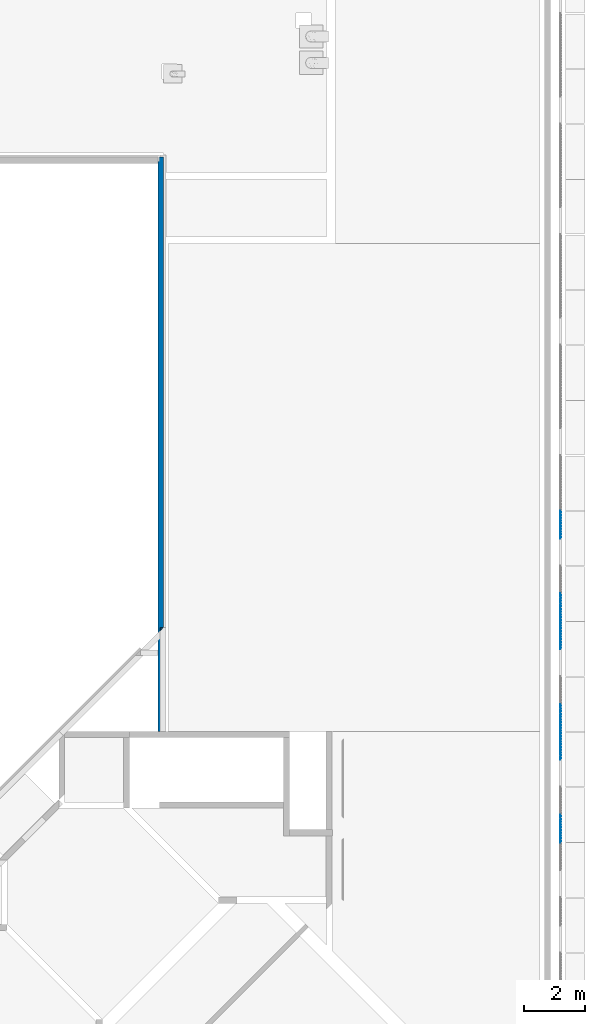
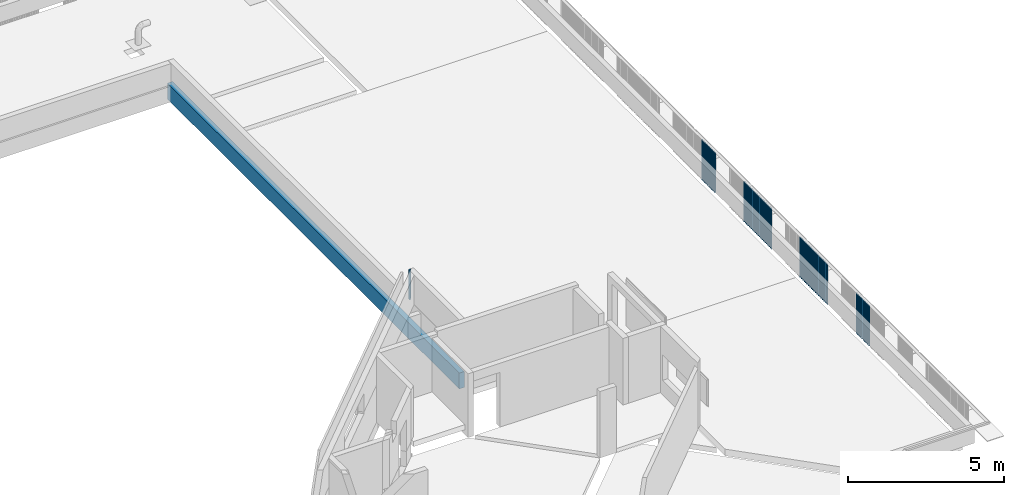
# One storey, part 12 of 37: 8 walls.
"""IFC4X3_ADD2 building model written with IfcOpenShell, lengths in millimetres."""

from ifc_helpers import new_model, si_unit, direction, frame, frame_2d, origin_with_axes, place, context, subcontext, project, spatial, polyline, rectangle, outline, extrude, material, type_object, element, save


model = new_model("IFC4X3_ADD2")

# Units and contexts
model_context = context("Model", 3, precision=1e-05, world=origin_with_axes(), true_north=direction((0.0, 1.0)))
body_context = subcontext(model_context, "Body", "Model", "MODEL_VIEW")
ifc_project = project(units=[si_unit("LENGTHUNIT", "METRE", prefix="MILLI"), si_unit("AREAUNIT", "SQUARE_METRE"), si_unit("VOLUMEUNIT", "CUBIC_METRE"), si_unit("PLANEANGLEUNIT", "RADIAN"), si_unit("TIMEUNIT", "SECOND"), si_unit("MASSUNIT", "GRAM")], contexts=[model_context])

# Site, building, storey
site_placement = place(None, origin_with_axes())
site = spatial("IfcSite", under=ifc_project, at=site_placement, Name="Site", CompositionType="ELEMENT")
building_placement = place(site_placement, origin_with_axes())
building = spatial("IfcBuilding", under=site, at=building_placement, Name="IFC Building Story")
storey_placement = place(building_placement, frame((0.0, 0.0, 14400.0), z_axis=(0.0, 0.0, 1.0), x_axis=(1.0, 0.0, 0.0)))
storey = spatial("IfcBuildingStorey", under=building, at=storey_placement, Name="040", Elevation=14400.0)

# Walls
ifc_material_1 = material(Name="BB_Beton_Bestaand")
wall_type_1 = type_object("IfcWallType", Name="BB_Beton_Bestaand 190", PredefinedType="NOTDEFINED", material=ifc_material_1)
wall_1_placement = place(storey_placement, origin_with_axes())
element("IfcWall", 1, at=wall_1_placement, inside=storey, type_object=wall_type_1, Name="Basic Wall:BB_XX_Wand uit beton, 190 mm", ObjectType="Basic Wall:BB_XX_Wand uit beton, 190 mm", PredefinedType="SOLIDWALL", context=body_context, shape_type="SweptSolid", body=[
    extrude(rectangle(XDim=18704.9959341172, YDim=190.0, at=frame_2d((0.0, 0.0), x_axis=(0.0, 1.0))), frame((-12600.0040658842, 29452.4979670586, -200.0), z_axis=(0.0, 0.0, 1.0), x_axis=(1.0, 0.0, 0.0)), (0.0, 0.0, 1.0), 619.999999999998),
])
ifc_material_2 = material(Name="BB_Metselwerk_Betonsteen")
wall_type_2 = type_object("IfcWallType", Name="BB_Metselwerk_Betonsteen 0", PredefinedType="NOTDEFINED", material=ifc_material_2)
wall_2_placement = place(storey_placement, origin_with_axes())
element("IfcWall", 2, at=wall_2_placement, inside=storey, type_object=wall_type_2, Name="Basic Wall:BB_03.09.24#03_Wand uit metselwerk, 190 mm", ObjectType="Basic Wall:BB_03.09.24#03_Wand uit metselwerk, 190 mm", PredefinedType="SOLIDWALL", context=body_context, shape_type="SweptSolid", body=[
    extrude(outline(polyline([(-31.66666666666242, -63.33333333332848), (-31.66666666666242, 31.66666666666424), (63.33333333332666, 31.66666666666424), (-31.66666666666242, -63.33333333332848)])), frame((-12588.33739921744, 23447.97760493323, 1250.0), z_axis=(0.0, 0.0, 1.0), x_axis=(1.0, 0.0, 0.0)), (0.0, 0.0, 1.0), 1150.0),
])
ifc_material_3 = material(Name="BB_Metaal_Aluminium_Puntprofiel")
wall_type_3 = type_object("IfcWallType", Name="BB_Metaal_Aluminium_Puntprofiel 1", PredefinedType="NOTDEFINED", material=ifc_material_3)
wall_3_placement = place(storey_placement, origin_with_axes())
element("IfcWall", 3, at=wall_3_placement, inside=storey, type_object=wall_type_3, Name="BB_07.10_Gevelbekleding_PuntProfiel, 900 mm, vol_GMO:900 x 1600 mm", ObjectType="BB_07.10_Gevelbekleding_PuntProfiel, 900 mm, vol_GMO:900 x 1600 mm", PredefinedType="NOTDEFINED", context=body_context, shape_type="SweptSolid", body=[
    extrude(outline(polyline([(-10.06027913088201, -349.0000000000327), (-10.06027913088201, -371.0000000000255), (23.93972086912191, -405.0000000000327), (-10.06027913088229, -439.0000000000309), (-10.06027913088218, -461.0000000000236), (-11.06027913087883, -461.4142135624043), (-11.06027913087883, -438.5857864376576), (22.52550730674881, -405.0000000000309), (-11.06027913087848, -371.4142135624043), (-11.06027913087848, -348.5857864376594), (22.52550730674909, -315.0000000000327), (-11.0602791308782, -281.4142135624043), (-11.0602791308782, -258.5857864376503), (22.52550730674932, -225.0000000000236), (-11.06027913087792, -191.4142135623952), (-11.06027913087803, -168.585786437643), (22.5255073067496, -135.0000000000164), (-11.0602791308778, -101.4142135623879), (-11.06027913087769, -78.58578643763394), (22.52550730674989, -45.00000000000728), (-11.06027913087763, -11.41421356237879), (-11.06027913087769, 11.41421356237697), (22.52550730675, 45.00000000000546), (-11.0602791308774, 78.58578643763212), (-11.0602791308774, 101.4142135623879), (22.52550730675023, 135.0000000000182), (-11.06027913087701, 168.585786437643), (-11.06027913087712, 191.4142135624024), (22.5255073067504, 225.0000000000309), (-11.06027913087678, 258.5857864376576), (-11.06027913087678, 281.4142135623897), (22.5255073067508, 315.0000000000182), (-11.06027913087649, 348.585786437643), (-11.06027913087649, 371.4142135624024), (22.52550730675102, 405.0000000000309), (-11.06027913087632, 438.5857864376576), (-11.06027913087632, 461.4142135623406), (-10.0602791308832, 460.9999999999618), (-10.0602791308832, 439.0000000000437), (23.93972086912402, 405.0000000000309), (-10.06027913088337, 371.0000000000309), (-10.06027913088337, 349.0000000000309), (23.93972086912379, 315.0000000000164), (-10.0602791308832, 281.0000000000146), (-10.0602791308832, 259.0000000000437), (23.93972086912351, 225.0000000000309), (-10.060279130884, 191.0000000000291), (-10.060279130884, 169.0000000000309), (23.93972086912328, 135.0000000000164), (-10.06027913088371, 101.0000000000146), (-10.06027913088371, 79.00000000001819), (23.93972086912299, 45.00000000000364), (-10.06027913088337, 11.00000000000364), (-10.06027913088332, -10.99999999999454), (23.93972086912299, -45.00000000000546), (-10.0602791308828, -79.00000000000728), (-10.0602791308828, -101.0000000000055), (23.93972086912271, -135.0000000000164), (-10.06027913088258, -169.0000000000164), (-10.06027913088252, -191.0000000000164), (23.93972086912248, -225.0000000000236), (-10.06027913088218, -259.0000000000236), (-10.06027913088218, -281.0000000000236), (23.9397208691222, -315.0000000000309), (-10.06027913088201, -349.0000000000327)])), frame((426.0602791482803, 16930.00000000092, -960.0), z_axis=(0.0, 0.0, 1.0), x_axis=(1.0, 0.0, 0.0)), (0.0, 0.0, 1.0), 1600.0),
])
wall_4_placement = place(storey_placement, origin_with_axes())
element("IfcWall", 4, at=wall_4_placement, inside=storey, type_object=wall_type_3, Name="BB_07.10_Gevelbekleding_PuntProfiel, 900 mm, vol_GMO:900 x 1600 mm", ObjectType="BB_07.10_Gevelbekleding_PuntProfiel, 900 mm, vol_GMO:900 x 1600 mm", PredefinedType="NOTDEFINED", context=body_context, shape_type="SweptSolid", body=[
    extrude(outline(polyline([(-10.06027913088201, -349.0000000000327), (-10.06027913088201, -371.0000000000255), (23.93972086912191, -405.0000000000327), (-10.06027913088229, -439.0000000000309), (-10.06027913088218, -461.0000000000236), (-11.06027913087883, -461.4142135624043), (-11.06027913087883, -438.5857864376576), (22.52550730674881, -405.0000000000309), (-11.06027913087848, -371.4142135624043), (-11.06027913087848, -348.5857864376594), (22.52550730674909, -315.0000000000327), (-11.0602791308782, -281.4142135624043), (-11.0602791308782, -258.5857864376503), (22.52550730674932, -225.0000000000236), (-11.06027913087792, -191.4142135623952), (-11.06027913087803, -168.585786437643), (22.5255073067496, -135.0000000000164), (-11.0602791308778, -101.4142135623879), (-11.06027913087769, -78.58578643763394), (22.52550730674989, -45.00000000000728), (-11.06027913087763, -11.41421356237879), (-11.06027913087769, 11.41421356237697), (22.52550730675, 45.00000000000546), (-11.0602791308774, 78.58578643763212), (-11.0602791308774, 101.4142135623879), (22.52550730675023, 135.0000000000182), (-11.06027913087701, 168.585786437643), (-11.06027913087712, 191.4142135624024), (22.5255073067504, 225.0000000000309), (-11.06027913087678, 258.5857864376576), (-11.06027913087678, 281.4142135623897), (22.5255073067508, 315.0000000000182), (-11.06027913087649, 348.585786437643), (-11.06027913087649, 371.4142135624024), (22.52550730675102, 405.0000000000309), (-11.06027913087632, 438.5857864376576), (-11.06027913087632, 461.4142135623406), (-10.0602791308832, 460.9999999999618), (-10.0602791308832, 439.0000000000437), (23.93972086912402, 405.0000000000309), (-10.06027913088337, 371.0000000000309), (-10.06027913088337, 349.0000000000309), (23.93972086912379, 315.0000000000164), (-10.0602791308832, 281.0000000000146), (-10.0602791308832, 259.0000000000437), (23.93972086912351, 225.0000000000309), (-10.060279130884, 191.0000000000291), (-10.060279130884, 169.0000000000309), (23.93972086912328, 135.0000000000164), (-10.06027913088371, 101.0000000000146), (-10.06027913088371, 79.00000000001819), (23.93972086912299, 45.00000000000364), (-10.06027913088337, 11.00000000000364), (-10.06027913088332, -10.99999999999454), (23.93972086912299, -45.00000000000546), (-10.0602791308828, -79.00000000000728), (-10.0602791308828, -101.0000000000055), (23.93972086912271, -135.0000000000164), (-10.06027913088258, -169.0000000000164), (-10.06027913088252, -191.0000000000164), (23.93972086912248, -225.0000000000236), (-10.06027913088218, -259.0000000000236), (-10.06027913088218, -281.0000000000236), (23.9397208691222, -315.0000000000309), (-10.06027913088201, -349.0000000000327)])), frame((426.0602791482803, 19630.00000000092, -960.0), z_axis=(0.0, 0.0, 1.0), x_axis=(1.0, 0.0, 0.0)), (0.0, 0.0, 1.0), 1600.0),
])
wall_5_placement = place(storey_placement, origin_with_axes())
element("IfcWall", 5, at=wall_5_placement, inside=storey, type_object=wall_type_3, Name="BB_07.10_Gevelbekleding_PuntProfiel, 900 mm, vol_GMO:900 x 1600 mm", ObjectType="BB_07.10_Gevelbekleding_PuntProfiel, 900 mm, vol_GMO:900 x 1600 mm", PredefinedType="NOTDEFINED", context=body_context, shape_type="SweptSolid", body=[
    extrude(outline(polyline([(-10.06027913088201, -349.0000000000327), (-10.06027913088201, -371.0000000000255), (23.93972086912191, -405.0000000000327), (-10.06027913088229, -439.0000000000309), (-10.06027913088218, -461.0000000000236), (-11.06027913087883, -461.4142135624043), (-11.06027913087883, -438.5857864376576), (22.52550730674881, -405.0000000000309), (-11.06027913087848, -371.4142135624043), (-11.06027913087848, -348.5857864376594), (22.52550730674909, -315.0000000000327), (-11.0602791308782, -281.4142135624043), (-11.0602791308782, -258.5857864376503), (22.52550730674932, -225.0000000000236), (-11.06027913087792, -191.4142135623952), (-11.06027913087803, -168.585786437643), (22.5255073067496, -135.0000000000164), (-11.0602791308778, -101.4142135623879), (-11.06027913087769, -78.58578643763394), (22.52550730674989, -45.00000000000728), (-11.06027913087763, -11.41421356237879), (-11.06027913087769, 11.41421356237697), (22.52550730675, 45.00000000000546), (-11.0602791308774, 78.58578643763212), (-11.0602791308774, 101.4142135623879), (22.52550730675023, 135.0000000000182), (-11.06027913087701, 168.585786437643), (-11.06027913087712, 191.4142135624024), (22.5255073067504, 225.0000000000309), (-11.06027913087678, 258.5857864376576), (-11.06027913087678, 281.4142135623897), (22.5255073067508, 315.0000000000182), (-11.06027913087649, 348.585786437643), (-11.06027913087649, 371.4142135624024), (22.52550730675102, 405.0000000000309), (-11.06027913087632, 438.5857864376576), (-11.06027913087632, 461.4142135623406), (-10.0602791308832, 460.9999999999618), (-10.0602791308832, 439.0000000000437), (23.93972086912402, 405.0000000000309), (-10.06027913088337, 371.0000000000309), (-10.06027913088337, 349.0000000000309), (23.93972086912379, 315.0000000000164), (-10.0602791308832, 281.0000000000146), (-10.0602791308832, 259.0000000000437), (23.93972086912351, 225.0000000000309), (-10.060279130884, 191.0000000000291), (-10.060279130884, 169.0000000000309), (23.93972086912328, 135.0000000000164), (-10.06027913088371, 101.0000000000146), (-10.06027913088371, 79.00000000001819), (23.93972086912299, 45.00000000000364), (-10.06027913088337, 11.00000000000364), (-10.06027913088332, -10.99999999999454), (23.93972086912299, -45.00000000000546), (-10.0602791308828, -79.00000000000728), (-10.0602791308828, -101.0000000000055), (23.93972086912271, -135.0000000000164), (-10.06027913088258, -169.0000000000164), (-10.06027913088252, -191.0000000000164), (23.93972086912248, -225.0000000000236), (-10.06027913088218, -259.0000000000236), (-10.06027913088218, -281.0000000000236), (23.9397208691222, -315.0000000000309), (-10.06027913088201, -349.0000000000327)])), frame((426.0602791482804, 20530.00000000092, -960.0), z_axis=(0.0, 0.0, 1.0), x_axis=(1.0, 0.0, 0.0)), (0.0, 0.0, 1.0), 1600.0),
])
wall_6_placement = place(storey_placement, origin_with_axes())
element("IfcWall", 6, at=wall_6_placement, inside=storey, type_object=wall_type_3, Name="BB_07.10_Gevelbekleding_PuntProfiel, 900 mm, vol_GMO:900 x 1600 mm", ObjectType="BB_07.10_Gevelbekleding_PuntProfiel, 900 mm, vol_GMO:900 x 1600 mm", PredefinedType="NOTDEFINED", context=body_context, shape_type="SweptSolid", body=[
    extrude(outline(polyline([(-10.06027913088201, -349.0000000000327), (-10.06027913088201, -371.0000000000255), (23.93972086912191, -405.0000000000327), (-10.06027913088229, -439.0000000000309), (-10.06027913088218, -461.0000000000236), (-11.06027913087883, -461.4142135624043), (-11.06027913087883, -438.5857864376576), (22.52550730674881, -405.0000000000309), (-11.06027913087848, -371.4142135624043), (-11.06027913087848, -348.5857864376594), (22.52550730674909, -315.0000000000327), (-11.0602791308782, -281.4142135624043), (-11.0602791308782, -258.5857864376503), (22.52550730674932, -225.0000000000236), (-11.06027913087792, -191.4142135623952), (-11.06027913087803, -168.585786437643), (22.5255073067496, -135.0000000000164), (-11.0602791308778, -101.4142135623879), (-11.06027913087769, -78.58578643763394), (22.52550730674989, -45.00000000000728), (-11.06027913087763, -11.41421356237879), (-11.06027913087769, 11.41421356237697), (22.52550730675, 45.00000000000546), (-11.0602791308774, 78.58578643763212), (-11.0602791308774, 101.4142135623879), (22.52550730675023, 135.0000000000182), (-11.06027913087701, 168.585786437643), (-11.06027913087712, 191.4142135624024), (22.5255073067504, 225.0000000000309), (-11.06027913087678, 258.5857864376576), (-11.06027913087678, 281.4142135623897), (22.5255073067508, 315.0000000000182), (-11.06027913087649, 348.585786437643), (-11.06027913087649, 371.4142135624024), (22.52550730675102, 405.0000000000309), (-11.06027913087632, 438.5857864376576), (-11.06027913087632, 461.4142135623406), (-10.0602791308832, 460.9999999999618), (-10.0602791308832, 439.0000000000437), (23.93972086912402, 405.0000000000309), (-10.06027913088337, 371.0000000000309), (-10.06027913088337, 349.0000000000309), (23.93972086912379, 315.0000000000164), (-10.0602791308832, 281.0000000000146), (-10.0602791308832, 259.0000000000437), (23.93972086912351, 225.0000000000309), (-10.060279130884, 191.0000000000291), (-10.060279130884, 169.0000000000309), (23.93972086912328, 135.0000000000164), (-10.06027913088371, 101.0000000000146), (-10.06027913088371, 79.00000000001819), (23.93972086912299, 45.00000000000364), (-10.06027913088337, 11.00000000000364), (-10.06027913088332, -10.99999999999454), (23.93972086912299, -45.00000000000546), (-10.0602791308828, -79.00000000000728), (-10.0602791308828, -101.0000000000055), (23.93972086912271, -135.0000000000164), (-10.06027913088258, -169.0000000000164), (-10.06027913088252, -191.0000000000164), (23.93972086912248, -225.0000000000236), (-10.06027913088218, -259.0000000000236), (-10.06027913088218, -281.0000000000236), (23.9397208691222, -315.0000000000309), (-10.06027913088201, -349.0000000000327)])), frame((426.0602791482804, 23230.00000000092, -960.0), z_axis=(0.0, 0.0, 1.0), x_axis=(1.0, 0.0, 0.0)), (0.0, 0.0, 1.0), 1600.0),
])
wall_7_placement = place(storey_placement, origin_with_axes())
element("IfcWall", 7, at=wall_7_placement, inside=storey, type_object=wall_type_3, Name="BB_07.10_Gevelbekleding_PuntProfiel, 900 mm, vol_GMO:900 x 1600 mm", ObjectType="BB_07.10_Gevelbekleding_PuntProfiel, 900 mm, vol_GMO:900 x 1600 mm", PredefinedType="NOTDEFINED", context=body_context, shape_type="SweptSolid", body=[
    extrude(outline(polyline([(-10.06027913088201, -349.0000000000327), (-10.06027913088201, -371.0000000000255), (23.93972086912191, -405.0000000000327), (-10.06027913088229, -439.0000000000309), (-10.06027913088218, -461.0000000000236), (-11.06027913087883, -461.4142135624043), (-11.06027913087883, -438.5857864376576), (22.52550730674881, -405.0000000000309), (-11.06027913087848, -371.4142135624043), (-11.06027913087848, -348.5857864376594), (22.52550730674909, -315.0000000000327), (-11.0602791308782, -281.4142135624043), (-11.0602791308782, -258.5857864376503), (22.52550730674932, -225.0000000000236), (-11.06027913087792, -191.4142135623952), (-11.06027913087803, -168.585786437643), (22.5255073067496, -135.0000000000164), (-11.0602791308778, -101.4142135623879), (-11.06027913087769, -78.58578643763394), (22.52550730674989, -45.00000000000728), (-11.06027913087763, -11.41421356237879), (-11.06027913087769, 11.41421356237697), (22.52550730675, 45.00000000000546), (-11.0602791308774, 78.58578643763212), (-11.0602791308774, 101.4142135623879), (22.52550730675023, 135.0000000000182), (-11.06027913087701, 168.585786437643), (-11.06027913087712, 191.4142135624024), (22.5255073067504, 225.0000000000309), (-11.06027913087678, 258.5857864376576), (-11.06027913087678, 281.4142135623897), (22.5255073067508, 315.0000000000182), (-11.06027913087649, 348.585786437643), (-11.06027913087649, 371.4142135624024), (22.52550730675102, 405.0000000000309), (-11.06027913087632, 438.5857864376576), (-11.06027913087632, 461.4142135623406), (-10.0602791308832, 460.9999999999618), (-10.0602791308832, 439.0000000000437), (23.93972086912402, 405.0000000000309), (-10.06027913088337, 371.0000000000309), (-10.06027913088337, 349.0000000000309), (23.93972086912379, 315.0000000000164), (-10.0602791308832, 281.0000000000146), (-10.0602791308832, 259.0000000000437), (23.93972086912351, 225.0000000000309), (-10.060279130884, 191.0000000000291), (-10.060279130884, 169.0000000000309), (23.93972086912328, 135.0000000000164), (-10.06027913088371, 101.0000000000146), (-10.06027913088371, 79.00000000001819), (23.93972086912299, 45.00000000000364), (-10.06027913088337, 11.00000000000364), (-10.06027913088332, -10.99999999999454), (23.93972086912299, -45.00000000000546), (-10.0602791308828, -79.00000000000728), (-10.0602791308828, -101.0000000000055), (23.93972086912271, -135.0000000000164), (-10.06027913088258, -169.0000000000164), (-10.06027913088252, -191.0000000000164), (23.93972086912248, -225.0000000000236), (-10.06027913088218, -259.0000000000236), (-10.06027913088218, -281.0000000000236), (23.9397208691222, -315.0000000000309), (-10.06027913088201, -349.0000000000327)])), frame((426.0602791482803, 24130.00000000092, -960.0), z_axis=(0.0, 0.0, 1.0), x_axis=(1.0, 0.0, 0.0)), (0.0, 0.0, 1.0), 1600.0),
])
wall_8_placement = place(storey_placement, origin_with_axes())
element("IfcWall", 8, at=wall_8_placement, inside=storey, type_object=wall_type_3, Name="BB_07.10_Gevelbekleding_PuntProfiel, 900 mm, vol_GMO:900 x 1600 mm", ObjectType="BB_07.10_Gevelbekleding_PuntProfiel, 900 mm, vol_GMO:900 x 1600 mm", PredefinedType="NOTDEFINED", context=body_context, shape_type="SweptSolid", body=[
    extrude(outline(polyline([(-10.06027913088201, -349.0000000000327), (-10.06027913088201, -371.0000000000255), (23.93972086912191, -405.0000000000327), (-10.06027913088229, -439.0000000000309), (-10.06027913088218, -461.0000000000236), (-11.06027913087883, -461.4142135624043), (-11.06027913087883, -438.5857864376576), (22.52550730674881, -405.0000000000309), (-11.06027913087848, -371.4142135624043), (-11.06027913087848, -348.5857864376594), (22.52550730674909, -315.0000000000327), (-11.0602791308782, -281.4142135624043), (-11.0602791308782, -258.5857864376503), (22.52550730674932, -225.0000000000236), (-11.06027913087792, -191.4142135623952), (-11.06027913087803, -168.585786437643), (22.5255073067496, -135.0000000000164), (-11.0602791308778, -101.4142135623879), (-11.06027913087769, -78.58578643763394), (22.52550730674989, -45.00000000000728), (-11.06027913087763, -11.41421356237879), (-11.06027913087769, 11.41421356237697), (22.52550730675, 45.00000000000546), (-11.0602791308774, 78.58578643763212), (-11.0602791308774, 101.4142135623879), (22.52550730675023, 135.0000000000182), (-11.06027913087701, 168.585786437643), (-11.06027913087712, 191.4142135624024), (22.5255073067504, 225.0000000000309), (-11.06027913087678, 258.5857864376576), (-11.06027913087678, 281.4142135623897), (22.5255073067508, 315.0000000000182), (-11.06027913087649, 348.585786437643), (-11.06027913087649, 371.4142135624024), (22.52550730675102, 405.0000000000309), (-11.06027913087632, 438.5857864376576), (-11.06027913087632, 461.4142135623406), (-10.0602791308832, 460.9999999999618), (-10.0602791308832, 439.0000000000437), (23.93972086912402, 405.0000000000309), (-10.06027913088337, 371.0000000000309), (-10.06027913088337, 349.0000000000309), (23.93972086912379, 315.0000000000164), (-10.0602791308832, 281.0000000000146), (-10.0602791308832, 259.0000000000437), (23.93972086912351, 225.0000000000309), (-10.060279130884, 191.0000000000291), (-10.060279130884, 169.0000000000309), (23.93972086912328, 135.0000000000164), (-10.06027913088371, 101.0000000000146), (-10.06027913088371, 79.00000000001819), (23.93972086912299, 45.00000000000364), (-10.06027913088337, 11.00000000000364), (-10.06027913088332, -10.99999999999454), (23.93972086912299, -45.00000000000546), (-10.0602791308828, -79.00000000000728), (-10.0602791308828, -101.0000000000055), (23.93972086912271, -135.0000000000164), (-10.06027913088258, -169.0000000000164), (-10.06027913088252, -191.0000000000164), (23.93972086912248, -225.0000000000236), (-10.06027913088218, -259.0000000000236), (-10.06027913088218, -281.0000000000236), (23.9397208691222, -315.0000000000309), (-10.06027913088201, -349.0000000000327)])), frame((426.0602791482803, 26830.00000000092, -960.0), z_axis=(0.0, 0.0, 1.0), x_axis=(1.0, 0.0, 0.0)), (0.0, 0.0, 1.0), 1600.0),
])

save(model, "model.ifc")
